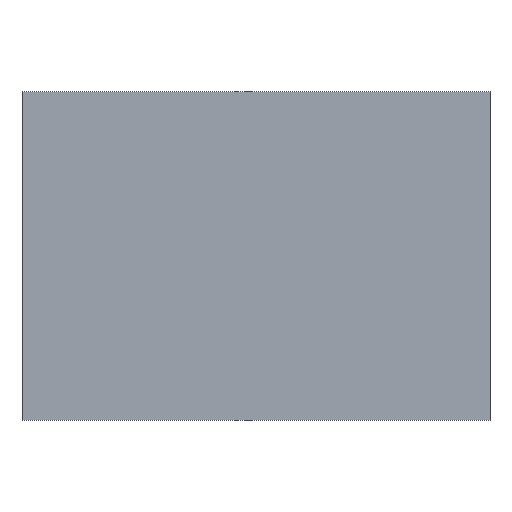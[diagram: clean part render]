
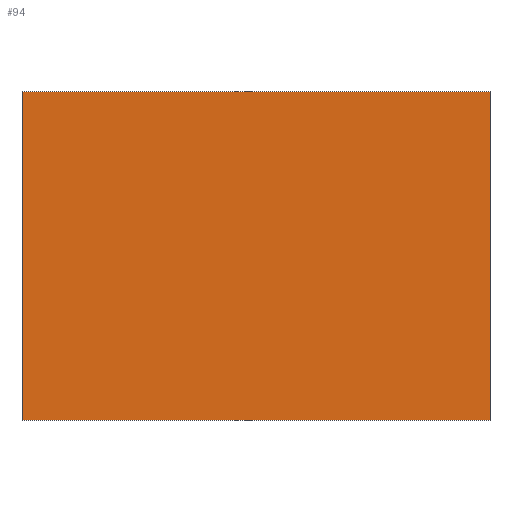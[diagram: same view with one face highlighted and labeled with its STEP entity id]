
A CAD part, front view. The second image highlights one B-rep face of the part: STEP entity #94.
In plain terms, the highlighted planar face has unit normal (0, -1, 0).
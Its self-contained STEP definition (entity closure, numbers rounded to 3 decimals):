
#94=ADVANCED_FACE('',(#234),#235,.T.);
#234=FACE_OUTER_BOUND('',#427,.T.);
#235=PLANE('',#428);
#427=EDGE_LOOP('',(#635,#636,#637,#638));
#428=AXIS2_PLACEMENT_3D('',#639,#640,#641);
#635=ORIENTED_EDGE('',*,*,#1137,.T.);
#636=ORIENTED_EDGE('',*,*,#1133,.T.);
#637=ORIENTED_EDGE('',*,*,#1129,.T.);
#638=ORIENTED_EDGE('',*,*,#1125,.T.);
#639=CARTESIAN_POINT('',(-6.5,-1.0,-14.));
#640=DIRECTION('',(0.,-1.0,0.0));
#641=DIRECTION('',(0.0,0.0,1.0));
#1125=EDGE_CURVE('',#1334,#1332,#1335,.T.);
#1129=EDGE_CURVE('',#1340,#1334,#1341,.T.);
#1133=EDGE_CURVE('',#1346,#1340,#1347,.T.);
#1137=EDGE_CURVE('',#1332,#1346,#1351,.T.);
#1332=VERTEX_POINT('',#1637);
#1334=VERTEX_POINT('',#1640);
#1335=LINE('',#1641,#1642);
#1340=VERTEX_POINT('',#1649);
#1341=LINE('',#1650,#1651);
#1346=VERTEX_POINT('',#1658);
#1347=LINE('',#1659,#1660);
#1351=LINE('',#1666,#1667);
#1637=CARTESIAN_POINT('',(17.0,-1.,2.5));
#1640=CARTESIAN_POINT('',(17.0,-1.,-30.5));
#1641=CARTESIAN_POINT('',(17.0,-1.,2.5));
#1642=VECTOR('',#2038,1.0);
#1649=CARTESIAN_POINT('',(-30.0,-1.0,-30.5));
#1650=CARTESIAN_POINT('',(17.0,-1.,-30.5));
#1651=VECTOR('',#2041,1.0);
#1658=CARTESIAN_POINT('',(-30.0,-1.0,2.5));
#1659=CARTESIAN_POINT('',(-30.0,-1.0,-30.5));
#1660=VECTOR('',#2044,1.0);
#1666=CARTESIAN_POINT('',(-30.0,-1.0,2.5));
#1667=VECTOR('',#2047,1.0);
#2038=DIRECTION('',(0.0,0.0,1.0));
#2041=DIRECTION('',(1.0,0.,0.0));
#2044=DIRECTION('',(-0.0,0.0,-1.0));
#2047=DIRECTION('',(-1.0,0.,0.0));
